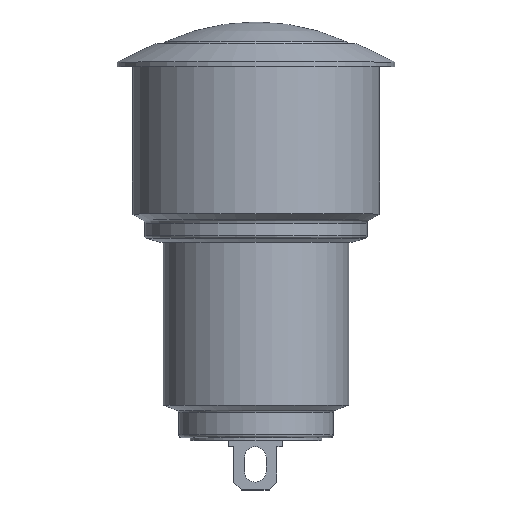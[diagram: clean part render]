
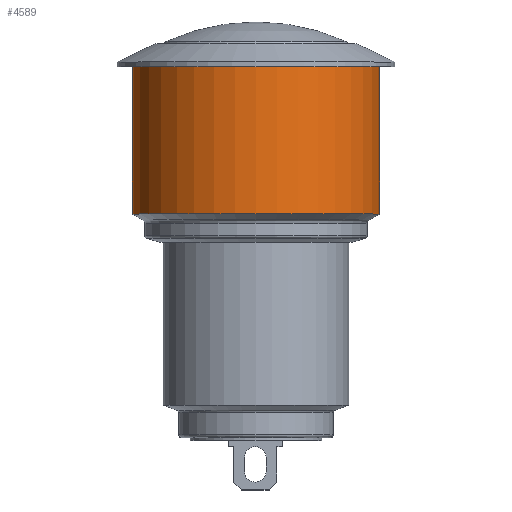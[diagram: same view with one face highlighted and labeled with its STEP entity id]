
A CAD part, top view. The second image highlights one B-rep face of the part: STEP entity #4589.
In plain terms, the highlighted cylindrical face has radius 8 mm (diameter 16 mm), a partial arc.
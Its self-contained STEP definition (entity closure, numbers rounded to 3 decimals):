
#174=CARTESIAN_POINT('',(0.,12.,0.));
#175=DIRECTION('',(0.,-1.,0.));
#176=DIRECTION('',(1.,0.,0.));
#177=AXIS2_PLACEMENT_3D('',#174,#175,#176);
#179=DIRECTION('',(0.,1.,0.));
#180=VECTOR('',#179,9.538);
#181=CARTESIAN_POINT('',(8.,2.462,0.));
#182=LINE('',#181,#180);
#183=DIRECTION('',(0.,1.,0.));
#184=VECTOR('',#183,9.538);
#185=CARTESIAN_POINT('',(-8.,2.462,0.));
#186=LINE('',#185,#184);
#192=CARTESIAN_POINT('',(0.,2.462,0.));
#193=DIRECTION('',(0.,-1.,0.));
#194=DIRECTION('',(1.,0.,0.));
#195=AXIS2_PLACEMENT_3D('',#192,#193,#194);
#3348=CARTESIAN_POINT('',(8.,2.462,0.));
#3349=CARTESIAN_POINT('',(8.,12.,0.));
#3350=VERTEX_POINT('',#3348);
#3351=VERTEX_POINT('',#3349);
#3362=CARTESIAN_POINT('',(-8.,2.462,0.));
#3363=CARTESIAN_POINT('',(-8.,12.,0.));
#3364=VERTEX_POINT('',#3362);
#3365=VERTEX_POINT('',#3363);
#4577=CARTESIAN_POINT('',(0.,14.143,0.));
#4578=DIRECTION('',(0.,-1.,0.));
#4579=DIRECTION('',(-1.,0.,0.));
#4580=AXIS2_PLACEMENT_3D('',#4577,#4578,#4579);
#4581=CYLINDRICAL_SURFACE('',#4580,8.);
#4582=ORIENTED_EDGE('',*,*,#4567,.F.);
#4584=ORIENTED_EDGE('',*,*,#4583,.T.);
#4585=ORIENTED_EDGE('',*,*,#4570,.T.);
#4586=ORIENTED_EDGE('',*,*,#4557,.F.);
#4587=EDGE_LOOP('',(#4582,#4584,#4585,#4586));
#4588=FACE_OUTER_BOUND('',#4587,.F.);
#4589=ADVANCED_FACE('',(#4588),#4581,.T.);
#178=CIRCLE('',#177,8.);
#196=CIRCLE('',#195,8.);
#4557=EDGE_CURVE('',#3351,#3365,#178,.T.);
#4567=EDGE_CURVE('',#3350,#3351,#182,.T.);
#4570=EDGE_CURVE('',#3364,#3365,#186,.T.);
#4583=EDGE_CURVE('',#3350,#3364,#196,.T.);
